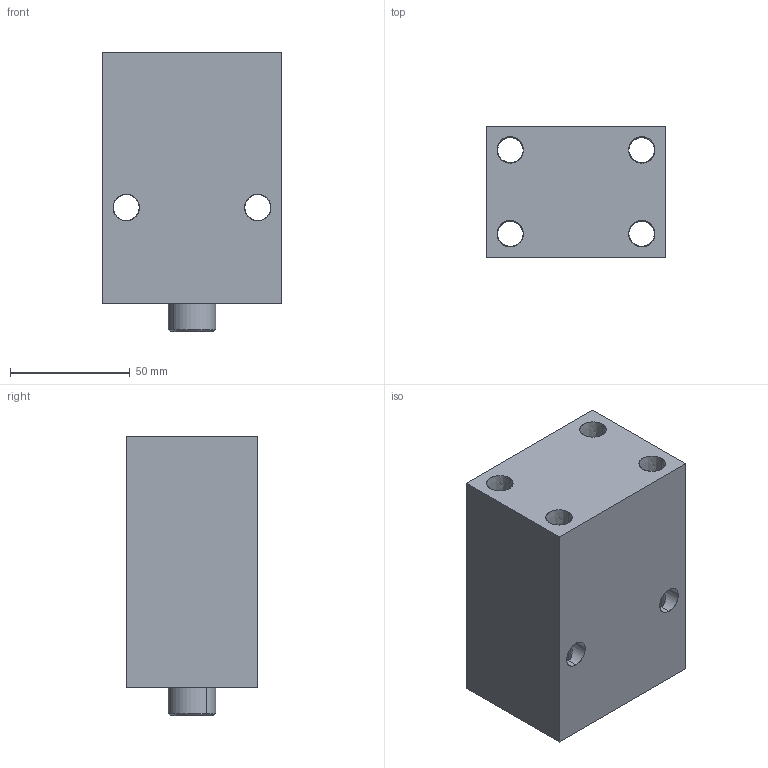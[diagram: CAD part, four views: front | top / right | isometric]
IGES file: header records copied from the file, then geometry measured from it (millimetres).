
Start section: SolidWorks IGES file using analytic representation for surfaces
Global section: file name: D:\karuppas\Clasp\3D model\Block cylinder B01C-Female thread\B01C-250F\Block cylinder_B01C-250F.IGS; native system: SolidWorks 2017; preprocessor: SolidWorks 2017; author: pc; date: 220709.235821; units: millimetre
Bounding box: 75 x 55 x 117 mm (x, y, z)
Surface area: 61372.9 mm2 (no closed solid volume)
Topology: 0 solids, 0 shells, 342 faces, 5252 edges, 5246 vertices
Faces by surface type: bspline 290, revolution 52
